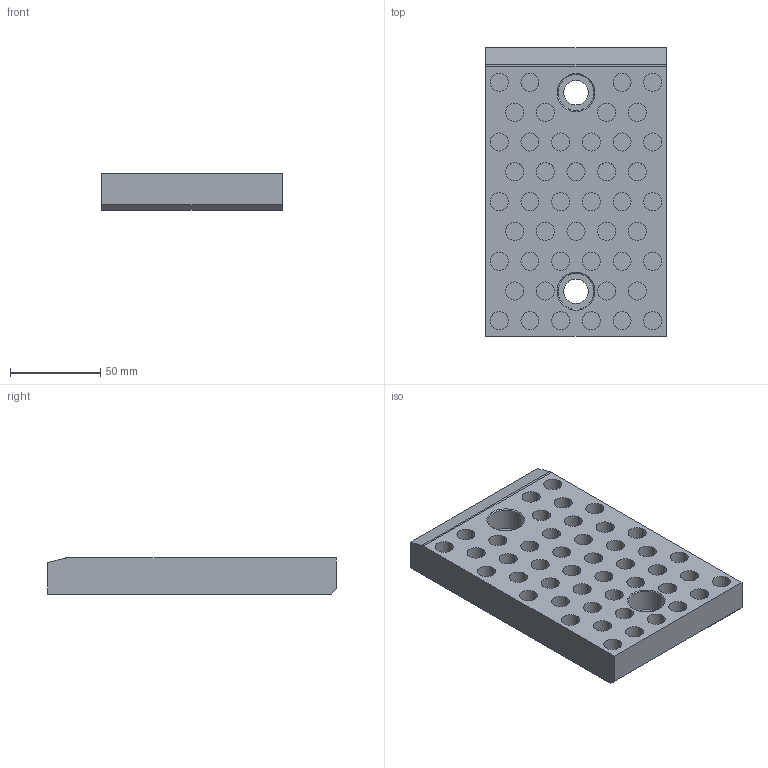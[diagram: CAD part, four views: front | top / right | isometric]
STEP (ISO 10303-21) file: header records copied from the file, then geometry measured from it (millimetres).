
FILE_DESCRIPTION (( 'STEP AP214' ), '1' );
FILE_NAME ('SW224-01-100x160.STEP', '2020-10-14T13:47:03', ( 'August' ), ( '' ), 'SwSTEP 2.0', 'SolidWorks 2018', '' );
FILE_SCHEMA (( 'AUTOMOTIVE_DESIGN' ));
Length unit declared in the file: millimetre
Products named in the file (1): SW224-01-100x160
Bounding box: 100 x 160 x 20 mm (x, y, z)
Volume: 274421 mm3; surface area: 57013.4 mm2
Topology: 1 solids, 1 shells, 161 faces, 329 edges, 218 vertices
Faces by surface type: cylinder 101, plane 56, cone 4
Entity records: 4632 total; most frequent: DIRECTION 859, CARTESIAN_POINT 709, ORIENTED_EDGE 658, AXIS2_PLACEMENT_3D 368, EDGE_CURVE 329, VERTEX_POINT 218, EDGE_LOOP 213, CIRCLE 206
